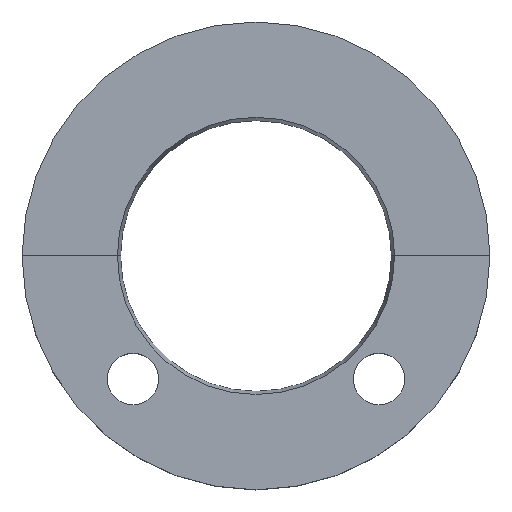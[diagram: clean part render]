
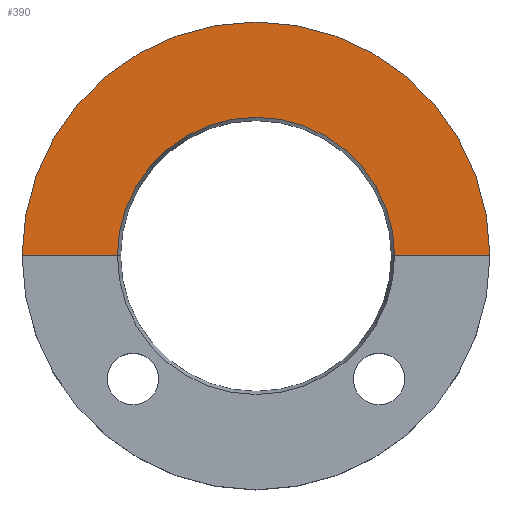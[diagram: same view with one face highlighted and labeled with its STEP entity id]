
A CAD part, top view. The second image highlights one B-rep face of the part: STEP entity #390.
In plain terms, the highlighted planar face has unit normal (0, 0, 1).
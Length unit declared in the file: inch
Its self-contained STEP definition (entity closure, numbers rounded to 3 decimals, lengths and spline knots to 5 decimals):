
#7 = DIRECTION ( 'NONE',  ( 0., 0., -1. ) ) ;
#9 = CIRCLE ( 'NONE', #234, 1.1875 ) ;
#20 = VECTOR ( 'NONE', #461, 39.37008 ) ;
#32 = DIRECTION ( 'NONE',  ( 1., 0., 0. ) ) ;
#63 = CIRCLE ( 'NONE', #137, 0.70358 ) ;
#89 = VECTOR ( 'NONE', #32, 39.37008 ) ;
#103 = VERTEX_POINT ( 'NONE', #494 ) ;
#105 = EDGE_LOOP ( 'NONE', ( #208, #315, #364, #380 ) ) ;
#135 = FACE_OUTER_BOUND ( 'NONE', #105, .T. ) ;
#137 = AXIS2_PLACEMENT_3D ( 'NONE', #483, #7, #375 ) ;
#157 = VERTEX_POINT ( 'NONE', #250 ) ;
#163 = EDGE_CURVE ( 'NONE', #103, #409, #335, .T. ) ;
#173 = PLANE ( 'NONE',  #361 ) ;
#191 = DIRECTION ( 'NONE',  ( 1., 0., 0. ) ) ;
#208 = ORIENTED_EDGE ( 'NONE', *, *, #349, .T. ) ;
#215 = CARTESIAN_POINT ( 'NONE',  ( -1.1875, 0., 0.5 ) ) ;
#216 = EDGE_CURVE ( 'NONE', #409, #157, #9, .T. ) ;
#231 = CARTESIAN_POINT ( 'NONE',  ( -0.70358, 0., 0.5 ) ) ;
#234 = AXIS2_PLACEMENT_3D ( 'NONE', #510, #490, #260 ) ;
#242 = VERTEX_POINT ( 'NONE', #231 ) ;
#250 = CARTESIAN_POINT ( 'NONE',  ( -1.1875, 0., 0.5 ) ) ;
#260 = DIRECTION ( 'NONE',  ( 1., 0., 0. ) ) ;
#290 = EDGE_CURVE ( 'NONE', #242, #103, #63, .T. ) ;
#294 = CARTESIAN_POINT ( 'NONE',  ( -1.1875, 0., 0.5 ) ) ;
#315 = ORIENTED_EDGE ( 'NONE', *, *, #290, .T. ) ;
#335 = LINE ( 'NONE', #215, #89 ) ;
#349 = EDGE_CURVE ( 'NONE', #157, #242, #520, .T. ) ;
#361 = AXIS2_PLACEMENT_3D ( 'NONE', #522, #439, #191 ) ;
#364 = ORIENTED_EDGE ( 'NONE', *, *, #163, .T. ) ;
#375 = DIRECTION ( 'NONE',  ( 1., 0., 0. ) ) ;
#380 = ORIENTED_EDGE ( 'NONE', *, *, #216, .T. ) ;
#390 = ADVANCED_FACE ( 'NONE', ( #135 ), #173, .T. ) ;
#409 = VERTEX_POINT ( 'NONE', #435 ) ;
#435 = CARTESIAN_POINT ( 'NONE',  ( 1.1875, 0., 0.5 ) ) ;
#439 = DIRECTION ( 'NONE',  ( 0., 0., 1. ) ) ;
#461 = DIRECTION ( 'NONE',  ( 1., 0., 0. ) ) ;
#483 = CARTESIAN_POINT ( 'NONE',  ( 0., 0., 0.5 ) ) ;
#490 = DIRECTION ( 'NONE',  ( 0., 0., 1. ) ) ;
#494 = CARTESIAN_POINT ( 'NONE',  ( 0.70358, 0., 0.5 ) ) ;
#510 = CARTESIAN_POINT ( 'NONE',  ( 0., 0., 0.5 ) ) ;
#520 = LINE ( 'NONE', #294, #20 ) ;
#522 = CARTESIAN_POINT ( 'NONE',  ( 0., 0., 0.5 ) ) ;
